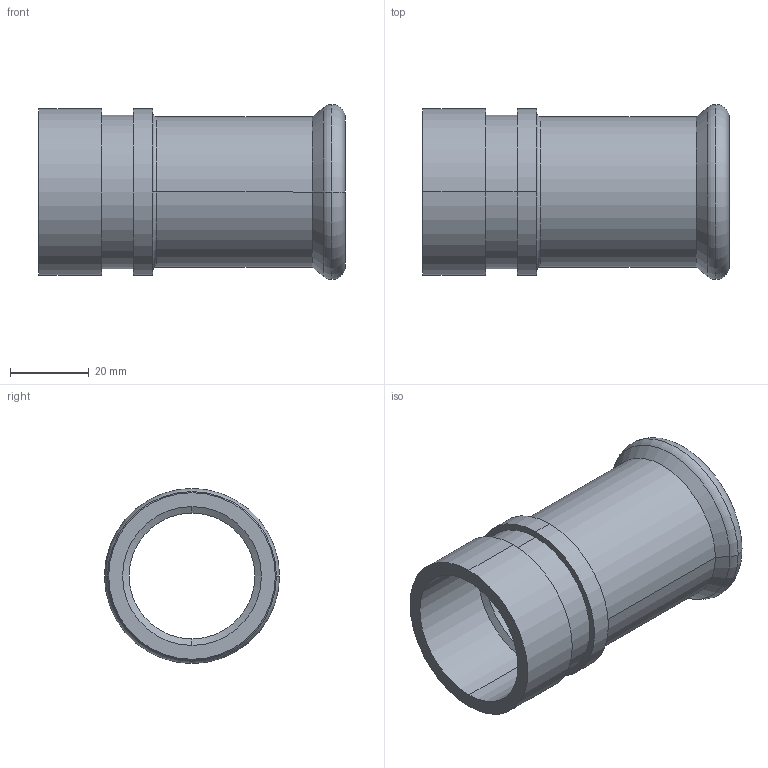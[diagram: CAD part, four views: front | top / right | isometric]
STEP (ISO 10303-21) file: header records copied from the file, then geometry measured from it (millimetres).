
FILE_DESCRIPTION(('CoCreate Modeling STEP Export'),'2;1');
FILE_NAME('C1442 42x35.stp','2014-11-12T16:41:20',(''),(''),'CoCreate Modeling STEP processor for AP214 (Solid Model)','CoCreate Modeling 17.00A 17-Jun-2010 (C) Parametric Technology GmbH','');
FILE_SCHEMA(('AUTOMOTIVE_DESIGN { 1 0 10303 214 1 1 1 1 }'));
Length unit declared in the file: millimetre
Products named in the file (2): CP1442_42x35
Assembly tree (1 placements, depth 2):
  CP1442_42x35
    CP1442_42x35
Bounding box: 78 x 44.55 x 44.55 mm (x, y, z)
Volume: 22137.1 mm3; surface area: 20366.8 mm2
Topology: 1 solids, 1 shells, 33 faces, 76 edges, 50 vertices
Faces by surface type: cylinder 16, plane 7, torus 6, cone 4
Entity records: 799 total; most frequent: ORIENTED_EDGE 152, CARTESIAN_POINT 117, DIRECTION 114, EDGE_CURVE 76, VERTEX_POINT 50, AXIS2_PLACEMENT_3D 47, EDGE_LOOP 40, FACE_OUTER_BOUND 33
